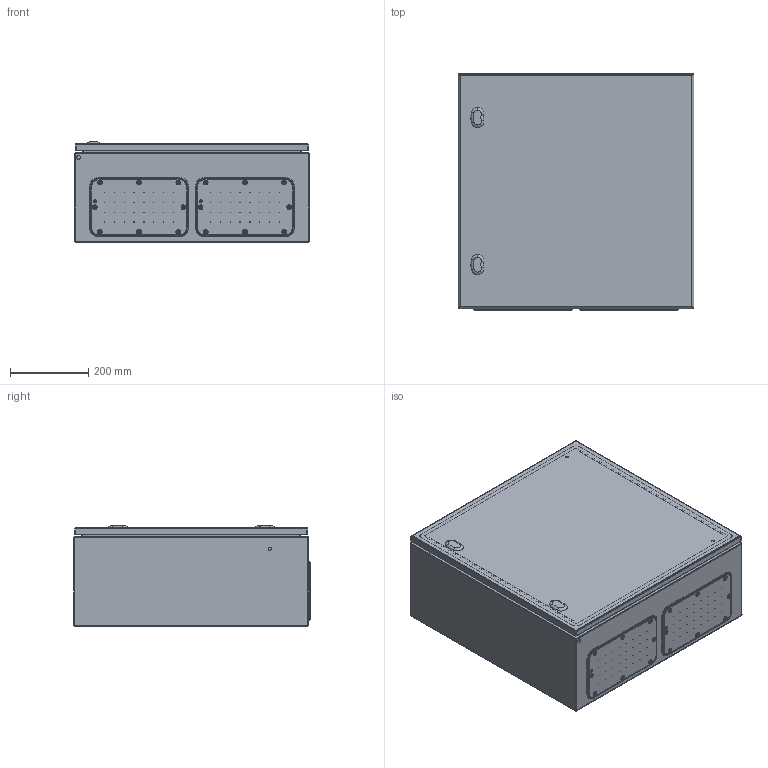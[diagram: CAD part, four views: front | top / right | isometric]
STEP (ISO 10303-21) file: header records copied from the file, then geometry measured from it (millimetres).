
FILE_DESCRIPTION (( 'STEP AP203' ), '1' );
FILE_NAME ('0600x0600x0250 dx.step', '2021-09-07T06:41:32', ( '' ), ( '' ), 'SwSTEP 2.0', 'SolidWorks 2021', '' );
FILE_SCHEMA (( 'CONFIG_CONTROL_DESIGN' ));
Length unit declared in the file: millimetre
Products named in the file (7): AR_ECOR_montaggio_porta_singola_0600x0600; AR_ECOR_Piastra_16; 0600x0600x0250 dx; AR_ECOR_porta_singola_0600x0600; AR_ECOR_flangia IC_03; AR_ECOR_chiusura_std_STD; AR_ECOR_involucro_0600x0600x0250
Assembly tree (8 placements, depth 3):
  0600x0600x0250 dx
    AR_ECOR_involucro_0600x0600x0250
    AR_ECOR_montaggio_porta_singola_0600x0600
      AR_ECOR_porta_singola_0600x0600
      AR_ECOR_chiusura_std_STD  x2
    AR_ECOR_flangia IC_03  x2
    AR_ECOR_Piastra_16
Bounding box: 600 x 604 x 255 mm (x, y, z)
Volume: 2932425.8 mm3; surface area: 3512622 mm2
Topology: 7 solids, 7 shells, 1013 faces, 2495 edges, 1574 vertices
Faces by surface type: cylinder 475, plane 284, cone 108, torus 78, bspline 52, sphere 16
Entity records: 23893 total; most frequent: CARTESIAN_POINT 4926, DIRECTION 4039, ORIENTED_EDGE 3632, EDGE_CURVE 1816, AXIS2_PLACEMENT_3D 1604, VERTEX_POINT 1156, EDGE_LOOP 968, CIRCLE 889
